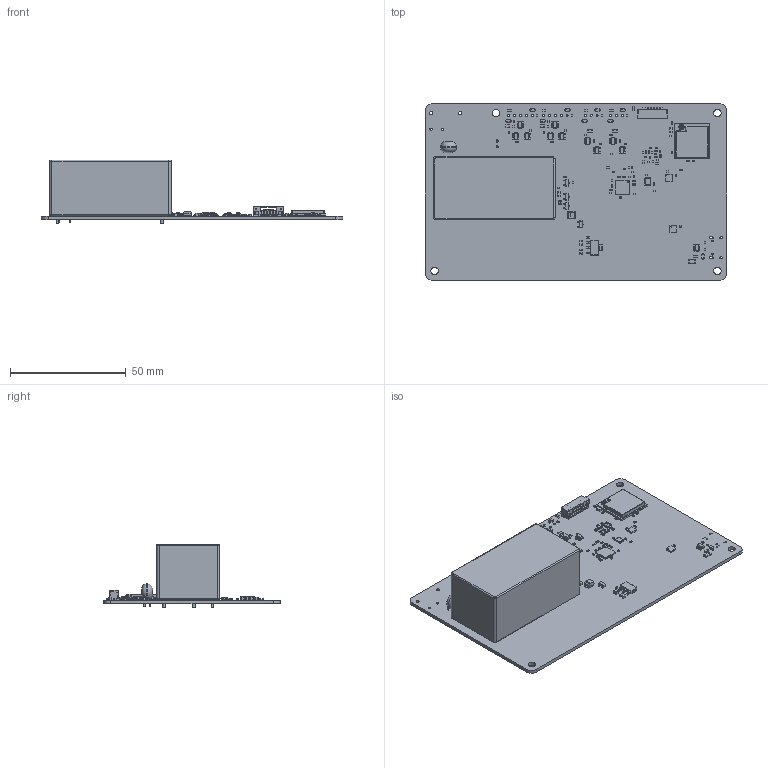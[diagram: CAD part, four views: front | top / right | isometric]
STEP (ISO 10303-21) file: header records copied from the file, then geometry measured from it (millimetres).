
FILE_DESCRIPTION(('KiCad electronic assembly'),'2;1');
FILE_NAME('AVO_DOCK_V1_PCB_FINAL_STEP.step','2026-11-16T02:02:14',( 'Pcbnew'),('Kicad'),'Open CASCADE STEP processor 7.6', 'KiCad to STEP converter','Unknown');
FILE_SCHEMA(('AUTOMOTIVE_DESIGN { 1 0 10303 214 1 1 1 1 }'));
Length unit declared in the file: millimetre
Products named in the file (50): AVO_DOCK_V1_PCB_FINAL_STEP 1; C_0603_1608Metric; D_SOD-323; SOT-23-5; DFN-10-1EP_3x3mm_P0.5mm_EP1.65x2.38mm; AVO_DOCK_V1_PCB_FINAL_STEP 1.4.1; Fuse_1206_3216Metric; R_0805_2012Metric; R_0402_1005Metric; C_0402_1005Metric; SOT-223; JST_GH_SM08B-GHS-TB_1x08-1MP_P1.25mm_Horizontal; Crystal_SMD_3225-4Pin_3.2x2.5mm; C_0805_2012Metric; SOT-23; SOT-23-6; CP_EIA-3528-21_Kemet-B; RV_Disc_D7mm_W4.8mm_P5mm; Converter_ACDC_MeanWell_IRM-20-xx_THT; QFN-36-1EP_6x6mm_P0.5mm_EP3.7x3.7mm; ESP32-S3-MINI-1U; DesignRootModel; uid__2482; Submodel-R0201_part_R0201; Submodel-D__3D_design_ESP32-S3_module_module_ESP32-S3-MINI-1U-3D_PCB_
ESP32-S3-MINI-1U_V1.1_20210824_PCB_3D_ImportedPartModels_R0201_
20210301.STEP; R0201_20210301.xtd; Submodel-L0201_part_L0201; Submodel-D__3D_design_ESP32-S3_module_module_ESP32-S3-MINI-1U-3D_PCB_
ESP32-S3-MINI-1U_V1.1_20210824_PCB_3D_ImportedPartModels_L0201_
20210301.STEP; L0201_20210301.xtd; Submodel-C0201_part_C0201; Submodel-D__3D_design_ESP32-S3_module_module_ESP32-S3-MINI-1U-3D_PCB_
ESP32-S3-MINI-1U_V1.1_20210824_PCB_3D_ImportedPartModels_C0201_
20210301.STEP; C0201_20210301.xtd; Submodel-C0402_part_C0402; Submodel-D__3D_design_ESP32-S3_module_module_ESP32-S3-MINI-1U-3D_PCB_
ESP32-S3-MINI-1U_V1.1_20210824_PCB_3D_ImportedPartModels_C0402_
20210301.STEP; C0402_20210301.xtd; Submodel-SOD882_part_SOD882; Submodel-D__3D_design_ESP32-S3_module_module_ESP32-S3-MINI-1U-3D_PCB_
ESP32-S3-MINI-1U_V1.1_20210824_PCB_3D_ImportedPartModels_DFN1006.STEP; DFN1006.xtd; Submodel-XTAL3225_part_XTAL3225; Submodel-D__3D_design_ESP32-S3_module_module_ESP32-S3-MINI-1U-3D_PCB_
ESP32-S3-MINI-1U_V1.1_20210824_PCB_3D_ImportedPartModels_XTAL3225_
20210301.STEP ...
Assembly tree (170 placements, depth 6):
  AVO_DOCK_V1_PCB_FINAL_STEP 1
    C_0603_1608Metric  x7
    D_SOD-323  x9
    SOT-23-5  x4
    DFN-10-1EP_3x3mm_P0.5mm_EP1.65x2.38mm  x2
      AVO_DOCK_V1_PCB_FINAL_STEP 1.4.1
    Fuse_1206_3216Metric
    R_0805_2012Metric  x4
    R_0402_1005Metric  x47
    C_0402_1005Metric  x27
    SOT-223
    JST_GH_SM08B-GHS-TB_1x08-1MP_P1.25mm_Horizontal
    Crystal_SMD_3225-4Pin_3.2x2.5mm
    C_0805_2012Metric  x5
    SOT-23  x4
    SOT-23-6  x7
    CP_EIA-3528-21_Kemet-B
    RV_Disc_D7mm_W4.8mm_P5mm
    Converter_ACDC_MeanWell_IRM-20-xx_THT
    QFN-36-1EP_6x6mm_P0.5mm_EP3.7x3.7mm
    ESP32-S3-MINI-1U
      DesignRootModel
        uid__2482
        Submodel-R0201_part_R0201  x3
          Submodel-D__3D_design_ESP32-S3_module_module_ESP32-S3-MINI-1U-3D_PCB_
ESP32-S3-MINI-1U_V1.1_20210824_PCB_3D_ImportedPartModels_R0201_
20210301.STEP
            R0201_20210301.xtd
        Submodel-L0201_part_L0201  x2
          Submodel-D__3D_design_ESP32-S3_module_module_ESP32-S3-MINI-1U-3D_PCB_
ESP32-S3-MINI-1U_V1.1_20210824_PCB_3D_ImportedPartModels_L0201_
20210301.STEP
            L0201_20210301.xtd
        Submodel-C0201_part_C0201  x13
          Submodel-D__3D_design_ESP32-S3_module_module_ESP32-S3-MINI-1U-3D_PCB_
ESP32-S3-MINI-1U_V1.1_20210824_PCB_3D_ImportedPartModels_C0201_
20210301.STEP
            C0201_20210301.xtd
        Submodel-C0402_part_C0402
          Submodel-D__3D_design_ESP32-S3_module_module_ESP32-S3-MINI-1U-3D_PCB_
ESP32-S3-MINI-1U_V1.1_20210824_PCB_3D_ImportedPartModels_C0402_
20210301.STEP
            C0402_20210301.xtd
        Submodel-SOD882_part_SOD882
          Submodel-D__3D_design_ESP32-S3_module_module_ESP32-S3-MINI-1U-3D_PCB_
ESP32-S3-MINI-1U_V1.1_20210824_PCB_3D_ImportedPartModels_DFN1006.STEP
            DFN1006.xtd
        Submodel-XTAL3225_part_XTAL3225
          Submodel-D__3D_design_ESP32-S3_module_module_ESP32-S3-MINI-1U-3D_PCB_
ESP32-S3-MINI-1U_V1.1_20210824_PCB_3D_ImportedPartModels_XTAL3225_
20210301.STEP
            XTAL3225_20210301.xtd
        Submodel-IPEX_4P_part_IPEX_4P
          Submodel-D__3D_design_ESP32-S3_module_module_ESP32-S3-MINI-1U-3D_PCB_
ESP32-S3-MINI-1U_V1.1_20210824_PCB_3D_ImportedPartModels_ipx3.STEP
            ipx3.xtd
        Submodel-QFN56_0P4_7_part_QFN56_0P4_7
          Submodel-D__3D_design_ESP32-S3_module_module_ESP32-S3-MINI-1U-3D_PCB_
ESP32-S3-MINI-1U_V1.1_20210824_PCB_3D_ImportedPartModels_ESP32-S3_
20210301.STEP
            ESP32-S3_20210301.xtd
      Imported
      Shield Box_ESP32-S3-MINI-1U_20200714
    AVO_DOCK_V1_PCB_PCB
Bounding box: 130 x 76 x 27.5 mm (x, y, z)
Volume: 49812.8 mm3; surface area: 30245.7 mm2
Topology: 371 solids, 372 shells, 8550 faces, 21324 edges, 13560 vertices
Faces by surface type: plane 5657, cylinder 1985, bspline 883, torus 14, cone 9, revolution 2
Full cylindrical faces by diameter (mm): 0.2 x2, 0.3 x9, 0.5 x1, 0.54 x2, 0.6 x2, 0.65 x2, 0.9 x18, 1 x2, 1.04 x4, 1.3 x2, 1.5 x4, 3.2 x4, 7 x1
Entity records: 113412 total; most frequent: CARTESIAN_POINT 26350, ORIENTED_EDGE 18088, DIRECTION 16455, EDGE_CURVE 9044, LINE 7327, VECTOR 7327, VERTEX_POINT 5906, AXIS2_PLACEMENT_3D 4563
